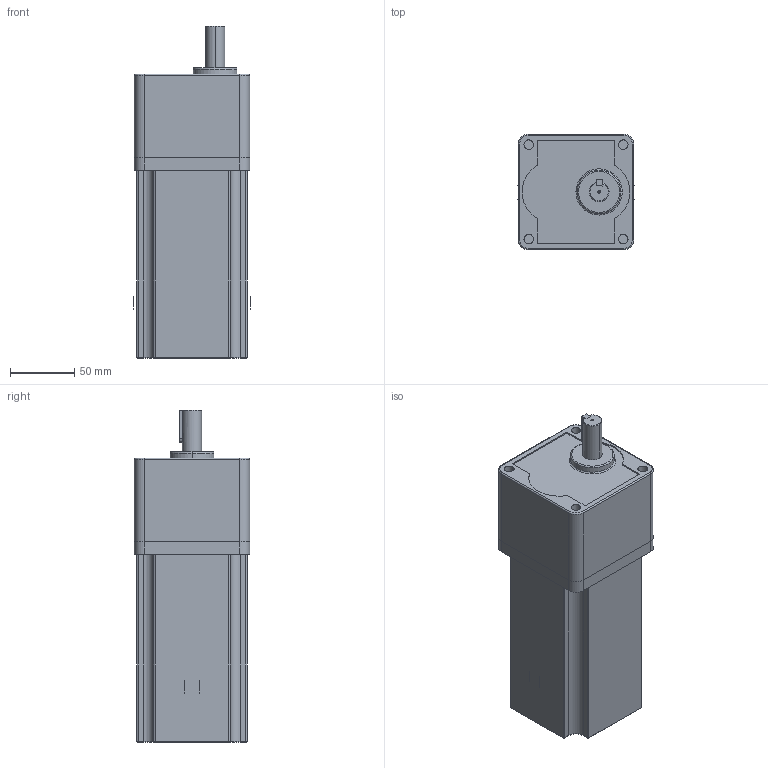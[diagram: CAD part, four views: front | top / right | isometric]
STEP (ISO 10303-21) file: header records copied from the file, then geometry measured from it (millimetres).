
FILE_DESCRIPTION (( 'STEP AP203' ), '1' );
FILE_NAME ('TM3404GU60A+5GU（L15）.STEP', '2026-07-20T03:25:03', ( 'user' ), ( '微软中国' ), 'SwSTEP 2.0', 'SolidWorks 2014', '' );
FILE_SCHEMA (( 'CONFIG_CONTROL_DESIGN' ));
Length unit declared in the file: millimetre
Products named in the file (1): TM3404GU60A+5GU（L15）
Bounding box: 91 x 90 x 258.5 mm (x, y, z)
Surface area: 124642.1 mm2 (no closed solid volume)
Topology: 0 solids, 11 shells, 131 faces, 357 edges, 240 vertices
Faces by surface type: cylinder 63, plane 42, torus 21, cone 5
Entity records: 4621 total; most frequent: CARTESIAN_POINT 1166, DIRECTION 764, ORIENTED_EDGE 637, EDGE_CURVE 357, AXIS2_PLACEMENT_3D 292, VERTEX_POINT 240, VECTOR 180, LINE 180
